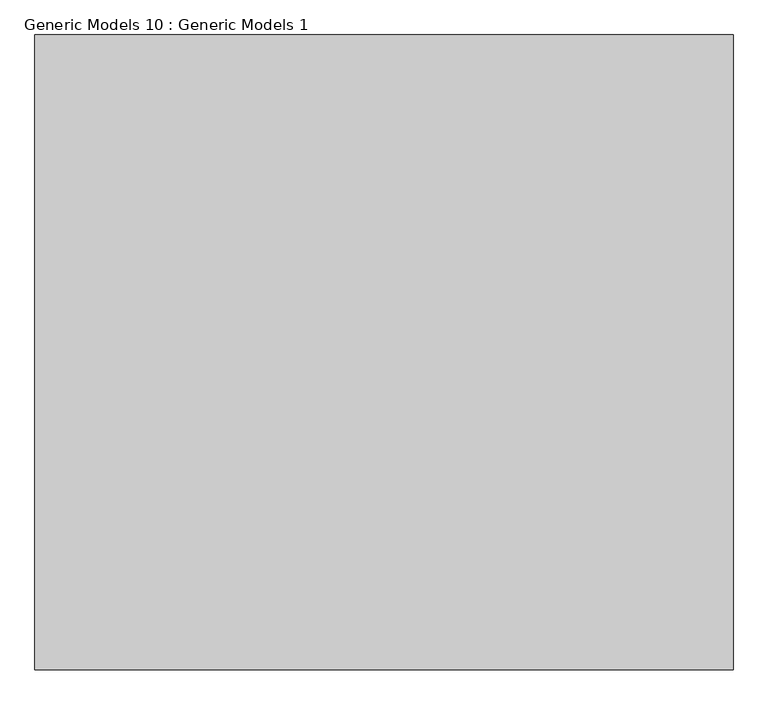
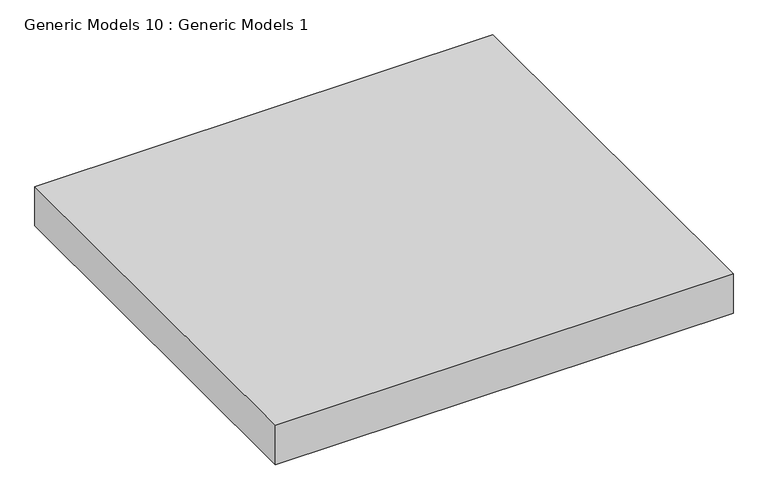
"""IFC4 building model written with IfcOpenShell, lengths in millimetres: proxy geometry, Generic Models 10 : Generic Models 1."""

import ifcopenshell
import ifcopenshell.guid

model = None  # the IFC model being written
_history = None  # IfcOwnerHistory: only IFC2X3 demands one
_inside = {}  # id of a spatial element -> (the spatial element, [elements in it])
_under = {}  # id of a project, library or spatial element -> (it, [spatial elements below it])
_declared = {}  # id of a project -> (the project, [libraries it declares])
_typed = {}  # id of a type object -> (the type object, [elements of that type])
_made_of = {}  # id of a material, layer set ... -> (it, [elements and type objects made of it])


def new_model(schema):
    """Start an empty IFC model of exactly this schema.

    Asked for "IFC4X3", IfcOpenShell would pick the latest addendum, in which some entities
    have other attributes; the version numbers below select the first issue.
    IFC2X3 requires an IfcOwnerHistory on every rooted entity: one is made here for all.
    """
    global model, _history
    if schema == "IFC4X3":
        model = ifcopenshell.file(schema_version=(4, 3, 0, 0))
    else:
        model = ifcopenshell.file(schema=schema)
    _inside.clear()
    _under.clear()
    _declared.clear()
    _typed.clear()
    _made_of.clear()
    _history = None
    if model.schema == "IFC2X3":
        org = make("IfcOrganization", Name="unknown")
        user = make(
            "IfcPersonAndOrganization",
            ThePerson=make("IfcPerson", FamilyName="unknown"),
            TheOrganization=org,
        )
        app = make(
            "IfcApplication",
            ApplicationDeveloper=org,
            Version="unknown",
            ApplicationFullName="unknown",
            ApplicationIdentifier="unknown",
        )
        _history = make(
            "IfcOwnerHistory",
            OwningUser=user,
            OwningApplication=app,
            ChangeAction="ADDED",
            CreationDate=0,
        )
    return model


def make(cls, **values):
    """One entity of the class cls with the attributes given. An attribute that is None is left unset."""
    return model.create_entity(
        cls, **{name: value for name, value in values.items() if value is not None}
    )


def rooted(cls, **values):
    """An entity with a GlobalId (a new one), such as an element, a storey or a relation."""
    return make(cls, GlobalId=ifcopenshell.guid.new(), OwnerHistory=_history, **values)


def si_unit(unit_type, name, prefix=None):
    """IfcSIUnit, for example si_unit("LENGTHUNIT", "METRE", prefix="MILLI")."""
    return make("IfcSIUnit", UnitType=unit_type, Prefix=prefix, Name=name)


def assignment(units):
    """IfcUnitAssignment: the units of a project."""
    return None if units is None else make("IfcUnitAssignment", Units=units)


def point(xyz):
    """IfcCartesianPoint."""
    return None if xyz is None else make("IfcCartesianPoint", Coordinates=xyz)


def direction(xyz):
    """IfcDirection."""
    return None if xyz is None else make("IfcDirection", DirectionRatios=xyz)


def frame(location, z_axis=None, x_axis=None):
    """IfcAxis2Placement3D, a coordinate frame: its origin and axes. An axis left out is left unset."""
    return make(
        "IfcAxis2Placement3D",
        Location=point(location),
        Axis=direction(z_axis),
        RefDirection=direction(x_axis),
    )


def origin():
    """The frame at (0, 0, 0) with its axes left unset."""
    return frame((0.0, 0.0, 0.0))


def origin_with_axes():
    """The frame at (0, 0, 0) with the z axis (0, 0, 1) and the x axis (1, 0, 0) written out."""
    return frame((0.0, 0.0, 0.0), z_axis=(0.0, 0.0, 1.0), x_axis=(1.0, 0.0, 0.0))


def place(relative_to, where):
    """IfcLocalPlacement: puts the frame where relative to a parent placement (None: the world)."""
    return make(
        "IfcLocalPlacement", PlacementRelTo=relative_to, RelativePlacement=where
    )


def context(
    kind, dimensions, precision=None, world=None, true_north=None, identifier=None
):
    """IfcGeometricRepresentationContext, for example the 3D "Model" context."""
    return make(
        "IfcGeometricRepresentationContext",
        ContextIdentifier=identifier,
        ContextType=kind,
        CoordinateSpaceDimension=dimensions,
        Precision=precision,
        WorldCoordinateSystem=world,
        TrueNorth=true_north,
    )


def project(units=None, contexts=None):
    """IfcProject with its units and contexts."""
    return rooted(
        "IfcProject",
        Name="project",
        RepresentationContexts=contexts,
        UnitsInContext=assignment(units),
    )


def spatial(cls, under=None, at=None, **own):
    """A site, building, storey or space (cls), placed at a placement, below another one or the project."""
    s = rooted(cls, ObjectPlacement=at, **own)
    if under is not None:
        _under.setdefault(under.id(), (under, []))[1].append(s)
    return s


def polyline(points):
    """IfcPolyline through the points."""
    return make("IfcPolyline", Points=[point(p) for p in points])


def outline(outer, holes=None, kind="AREA"):
    """IfcArbitraryClosedProfileDef: a profile drawn as a closed curve; with holes, ...WithVoids."""
    if holes is None:
        return make("IfcArbitraryClosedProfileDef", ProfileType=kind, OuterCurve=outer)
    return make(
        "IfcArbitraryProfileDefWithVoids",
        ProfileType=kind,
        OuterCurve=outer,
        InnerCurves=holes,
    )


def extrude(swept, where, along, depth):
    """IfcExtrudedAreaSolid: the profile swept, set in the frame where, extruded along a direction by depth."""
    return make(
        "IfcExtrudedAreaSolid",
        SweptArea=swept,
        Position=where,
        ExtrudedDirection=direction(along),
        Depth=depth,
    )


def shape(context_of_items, identifier, shape_type, items):
    """IfcShapeRepresentation: the items that make up one representation, for example the "Body"."""
    return make(
        "IfcShapeRepresentation",
        ContextOfItems=context_of_items,
        RepresentationIdentifier=identifier,
        RepresentationType=shape_type,
        Items=items,
    )


def source(mapping_origin, context_of_items, identifier, shape_type, items):
    """IfcRepresentationMap: a shape defined once, which mapped items show again and again."""
    return make(
        "IfcRepresentationMap",
        MappingOrigin=mapping_origin,
        MappedRepresentation=shape(context_of_items, identifier, shape_type, items),
    )


def transform(
    local_origin,
    x_axis=None,
    y_axis=None,
    z_axis=None,
    scale=None,
    scale2=None,
    scale3=None,
    uniform=True,
):
    """IfcCartesianTransformationOperator3D, or its non-uniform kind. x_axis, y_axis, z_axis: its Axis1, 2, 3."""
    if uniform:
        return make(
            "IfcCartesianTransformationOperator3D",
            Axis1=direction(x_axis),
            Axis2=direction(y_axis),
            LocalOrigin=point(local_origin),
            Scale=scale,
            Axis3=direction(z_axis),
        )
    return make(
        "IfcCartesianTransformationOperator3DnonUniform",
        Axis1=direction(x_axis),
        Axis2=direction(y_axis),
        LocalOrigin=point(local_origin),
        Scale=scale,
        Axis3=direction(z_axis),
        Scale2=scale2,
        Scale3=scale3,
    )


def mapped(mapping_source, mapping_target):
    """IfcMappedItem: shows the shape of a source again, moved by a transform."""
    return make(
        "IfcMappedItem", MappingSource=mapping_source, MappingTarget=mapping_target
    )


def made_of(thing, what):
    """Note that an element or type object is made of a material, layer set ...; save() writes the relation."""
    if what is not None:
        _made_of.setdefault(what.id(), (what, []))[1].append(thing)
    return thing


def element(
    cls,
    number,
    at=None,
    inside=None,
    cuts=None,
    type_object=None,
    material=None,
    context=None,
    identifier="Body",
    shape_type=None,
    held_by="IfcProductDefinitionShape",
    body=None,
    shapes=None,
    **own,
):
    """One element of the class cls, such as IfcWall. Its Tag is "e" and its number.

    at: its placement. inside: the storey or other place that contains it. cuts: it is an
    opening in that element (IfcRelVoidsElement). A single representation is given by context,
    identifier, shape_type and body (its items); several are given by shapes. held_by: the class
    of the entity that holds the representations. save() writes the other relations.
    """
    e = rooted(cls, Tag="e%d" % number, ObjectPlacement=at, **own)
    if body is not None:
        shapes = [shape(context, identifier, shape_type, body)]
    if shapes is not None:
        e.Representation = make(held_by, Representations=shapes)
    if inside is not None:
        _inside.setdefault(inside.id(), (inside, []))[1].append(e)
    if cuts is not None:
        rooted(
            "IfcRelVoidsElement", RelatingBuildingElement=cuts, RelatedOpeningElement=e
        )
    if type_object is not None:
        _typed.setdefault(type_object.id(), (type_object, []))[1].append(e)
    return made_of(e, material)


def aggregate(whole, parts):
    """IfcRelAggregates: a whole, such as a stair, and the parts it consists of."""
    return rooted("IfcRelAggregates", RelatingObject=whole, RelatedObjects=parts)


def save(model, path):
    """Write the relations noted so far, then the file.

    IfcRelAggregates (storeys below a building ...), IfcRelContainedInSpatialStructure (elements
    in a storey), IfcRelDefinesByType, IfcRelAssociatesMaterial and IfcRelDeclares: one each for
    every whole, place, type object, material and project.
    """
    for whole, parts in _under.values():
        aggregate(whole, parts)
    for where, things in _inside.values():
        rooted(
            "IfcRelContainedInSpatialStructure",
            RelatedElements=things,
            RelatingStructure=where,
        )
    for kind, things in _typed.values():
        rooted("IfcRelDefinesByType", RelatedObjects=things, RelatingType=kind)
    for what, things in _made_of.values():
        rooted("IfcRelAssociatesMaterial", RelatedObjects=things, RelatingMaterial=what)
    for by, libraries in _declared.values():
        rooted("IfcRelDeclares", RelatingContext=by, RelatedDefinitions=libraries)
    model.write(path)


def generic_models_10_generic_models_1_be3142f9(model_context):
    return source(origin(), model_context, "Body", "SweptSolid", [
        extrude(outline(polyline([(6515.6840593, -11014.0002483), (6515.6840593, -10014.0002483), (7615.6840593, -10014.0002483), (7615.6840593, -11014.0002483), (6515.6840593, -11014.0002483)])), origin_with_axes(), (0.0, 0.0, 1.0), 100.0),
    ])


if __name__ == "__main__":
    model = new_model("IFC4")
    model_context = context("Model", 3, world=origin())
    ifc_project = project(units=[si_unit("LENGTHUNIT", "METRE", prefix="MILLI")], contexts=[model_context])
    site = spatial("IfcSite", under=ifc_project)
    building = spatial("IfcBuilding", under=site)
    placement = place(None, origin())
    generic_models_10_generic_models_1_shape = generic_models_10_generic_models_1_be3142f9(model_context)
    element("IfcBuildingElementProxy", 1, Name="Generic Models 10 : Generic Models 1", ObjectType="Generic Models 10 : Generic Models 1", at=placement, inside=building, context=model_context, shape_type="MappedRepresentation", body=[
        mapped(generic_models_10_generic_models_1_shape, transform((0.0, 0.0, 0.0), x_axis=(1.0, 0.0, 0.0), y_axis=(0.0, 1.0, 0.0), z_axis=(0.0, 0.0, 1.0))),
    ])
    save(model, "model.ifc")
